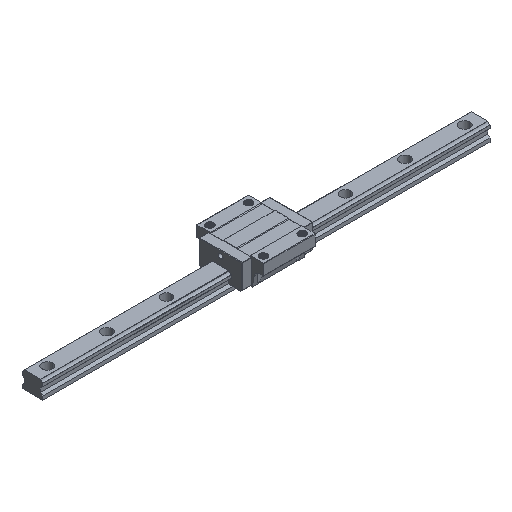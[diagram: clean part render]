
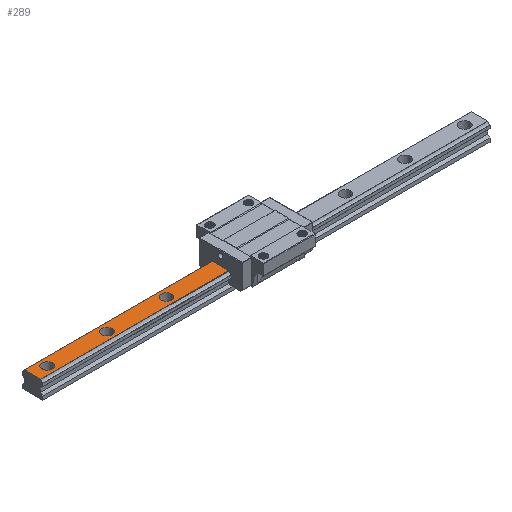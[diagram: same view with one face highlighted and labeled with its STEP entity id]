
A CAD part, isometric view. The second image highlights one B-rep face of the part: STEP entity #289.
In plain terms, the highlighted planar face has unit normal (0, 0, 1).
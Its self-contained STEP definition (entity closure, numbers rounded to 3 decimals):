
#121 = DIRECTION ( 'NONE',  ( 0., 0., -1. ) ) ;
#289 = ADVANCED_FACE ( 'NONE', ( #13353, #2041, #437, #1847 ), #6190, .F. ) ;
#413 = DIRECTION ( 'NONE',  ( 0., 0., -1. ) ) ;
#437 = FACE_BOUND ( 'NONE', #1756, .T. ) ;
#853 = EDGE_CURVE ( 'NONE', #4973, #10016, #16650, .T. ) ;
#1046 = VERTEX_POINT ( 'NONE', #15236 ) ;
#1101 = CIRCLE ( 'NONE', #8056, 7. ) ;
#1381 = AXIS2_PLACEMENT_3D ( 'NONE', #8221, #6796, #11142 ) ;
#1572 = ORIENTED_EDGE ( 'NONE', *, *, #2014, .T. ) ;
#1666 = ORIENTED_EDGE ( 'NONE', *, *, #11387, .T. ) ;
#1754 = DIRECTION ( 'NONE',  ( 0., 0., -1. ) ) ;
#1756 = EDGE_LOOP ( 'NONE', ( #17502, #1572 ) ) ;
#1847 = FACE_OUTER_BOUND ( 'NONE', #4196, .T. ) ;
#2014 = EDGE_CURVE ( 'NONE', #10727, #3666, #17040, .T. ) ;
#2041 = FACE_BOUND ( 'NONE', #6581, .T. ) ;
#2616 = DIRECTION ( 'NONE',  ( 0., 0., -1. ) ) ;
#3054 = ORIENTED_EDGE ( 'NONE', *, *, #3332, .T. ) ;
#3081 = CIRCLE ( 'NONE', #6993, 7. ) ;
#3257 = CARTESIAN_POINT ( 'NONE',  ( -280., 0., 23. ) ) ;
#3332 = EDGE_CURVE ( 'NONE', #10016, #4973, #3081, .T. ) ;
#3523 = AXIS2_PLACEMENT_3D ( 'NONE', #7327, #11391, #4396 ) ;
#3666 = VERTEX_POINT ( 'NONE', #12769 ) ;
#3794 = EDGE_LOOP ( 'NONE', ( #7271, #3054 ) ) ;
#4196 = EDGE_LOOP ( 'NONE', ( #9050, #9526, #13387, #11427 ) ) ;
#4396 = DIRECTION ( 'NONE',  ( -1., 0., 0. ) ) ;
#4484 = CARTESIAN_POINT ( 'NONE',  ( -300., 11.035, 23. ) ) ;
#4973 = VERTEX_POINT ( 'NONE', #16562 ) ;
#5179 = DIRECTION ( 'NONE',  ( -1., 0., 0. ) ) ;
#5188 = CARTESIAN_POINT ( 'NONE',  ( -207., 0., 23. ) ) ;
#5291 = CIRCLE ( 'NONE', #1381, 7. ) ;
#5319 = DIRECTION ( 'NONE',  ( -1., 0., 0. ) ) ;
#5364 = LINE ( 'NONE', #15356, #11060 ) ;
#5380 = EDGE_CURVE ( 'NONE', #1046, #7988, #15218, .T. ) ;
#5409 = DIRECTION ( 'NONE',  ( 1., 0., 0. ) ) ;
#5598 = CARTESIAN_POINT ( 'NONE',  ( 300., -11.035, 23. ) ) ;
#5897 = CARTESIAN_POINT ( 'NONE',  ( -113., 0., 23. ) ) ;
#6166 = DIRECTION ( 'NONE',  ( -1., 0., 0. ) ) ;
#6190 = PLANE ( 'NONE',  #10028 ) ;
#6450 = CARTESIAN_POINT ( 'NONE',  ( -300., -11.035, 23. ) ) ;
#6503 = DIRECTION ( 'NONE',  ( 0., -1., 0. ) ) ;
#6519 = ORIENTED_EDGE ( 'NONE', *, *, #9042, .T. ) ;
#6581 = EDGE_LOOP ( 'NONE', ( #1666, #6519 ) ) ;
#6796 = DIRECTION ( 'NONE',  ( 0., 0., -1. ) ) ;
#6993 = AXIS2_PLACEMENT_3D ( 'NONE', #10116, #121, #15857 ) ;
#7271 = ORIENTED_EDGE ( 'NONE', *, *, #853, .T. ) ;
#7327 = CARTESIAN_POINT ( 'NONE',  ( -280., 0., 23. ) ) ;
#7657 = EDGE_CURVE ( 'NONE', #3666, #10727, #1101, .T. ) ;
#7988 = VERTEX_POINT ( 'NONE', #16771 ) ;
#8056 = AXIS2_PLACEMENT_3D ( 'NONE', #3257, #413, #6166 ) ;
#8221 = CARTESIAN_POINT ( 'NONE',  ( -200., 0., 23. ) ) ;
#8434 = LINE ( 'NONE', #5598, #15526 ) ;
#8528 = AXIS2_PLACEMENT_3D ( 'NONE', #16928, #2616, #5179 ) ;
#8557 = VERTEX_POINT ( 'NONE', #6450 ) ;
#8928 = CARTESIAN_POINT ( 'NONE',  ( 300., 0., 23. ) ) ;
#9027 = DIRECTION ( 'NONE',  ( 0., -1., 0. ) ) ;
#9042 = EDGE_CURVE ( 'NONE', #13681, #11014, #5291, .T. ) ;
#9050 = ORIENTED_EDGE ( 'NONE', *, *, #10340, .T. ) ;
#9526 = ORIENTED_EDGE ( 'NONE', *, *, #5380, .F. ) ;
#9829 = AXIS2_PLACEMENT_3D ( 'NONE', #12403, #12487, #5319 ) ;
#10016 = VERTEX_POINT ( 'NONE', #5897 ) ;
#10028 = AXIS2_PLACEMENT_3D ( 'NONE', #8928, #1754, #9027 ) ;
#10116 = CARTESIAN_POINT ( 'NONE',  ( -120., 0., 23. ) ) ;
#10340 = EDGE_CURVE ( 'NONE', #8557, #7988, #8434, .T. ) ;
#10703 = DIRECTION ( 'NONE',  ( 0., -1., 0. ) ) ;
#10727 = VERTEX_POINT ( 'NONE', #17245 ) ;
#11014 = VERTEX_POINT ( 'NONE', #5188 ) ;
#11060 = VECTOR ( 'NONE', #6503, 1000. ) ;
#11142 = DIRECTION ( 'NONE',  ( -1., 0., 0. ) ) ;
#11347 = CIRCLE ( 'NONE', #9829, 7. ) ;
#11387 = EDGE_CURVE ( 'NONE', #11014, #13681, #11347, .T. ) ;
#11391 = DIRECTION ( 'NONE',  ( 0., 0., -1. ) ) ;
#11427 = ORIENTED_EDGE ( 'NONE', *, *, #13419, .T. ) ;
#12403 = CARTESIAN_POINT ( 'NONE',  ( -200., 0., 23. ) ) ;
#12487 = DIRECTION ( 'NONE',  ( 0., 0., -1. ) ) ;
#12769 = CARTESIAN_POINT ( 'NONE',  ( -287., 0., 23. ) ) ;
#13353 = FACE_BOUND ( 'NONE', #3794, .T. ) ;
#13387 = ORIENTED_EDGE ( 'NONE', *, *, #14933, .T. ) ;
#13419 = EDGE_CURVE ( 'NONE', #17677, #8557, #5364, .T. ) ;
#13508 = VECTOR ( 'NONE', #10703, 1000. ) ;
#13681 = VERTEX_POINT ( 'NONE', #13739 ) ;
#13739 = CARTESIAN_POINT ( 'NONE',  ( -193., 0., 23. ) ) ;
#14933 = EDGE_CURVE ( 'NONE', #1046, #17677, #16783, .T. ) ;
#15023 = DIRECTION ( 'NONE',  ( -1., 0., 0. ) ) ;
#15218 = LINE ( 'NONE', #17647, #13508 ) ;
#15236 = CARTESIAN_POINT ( 'NONE',  ( -47.35, 11.035, 23. ) ) ;
#15356 = CARTESIAN_POINT ( 'NONE',  ( -300., 0., 23. ) ) ;
#15526 = VECTOR ( 'NONE', #5409, 1000. ) ;
#15857 = DIRECTION ( 'NONE',  ( -1., 0., 0. ) ) ;
#16499 = VECTOR ( 'NONE', #15023, 1000. ) ;
#16562 = CARTESIAN_POINT ( 'NONE',  ( -127., 0., 23. ) ) ;
#16650 = CIRCLE ( 'NONE', #8528, 7. ) ;
#16771 = CARTESIAN_POINT ( 'NONE',  ( -47.35, -11.035, 23. ) ) ;
#16783 = LINE ( 'NONE', #17821, #16499 ) ;
#16928 = CARTESIAN_POINT ( 'NONE',  ( -120., 0., 23. ) ) ;
#17040 = CIRCLE ( 'NONE', #3523, 7. ) ;
#17245 = CARTESIAN_POINT ( 'NONE',  ( -273., 0., 23. ) ) ;
#17502 = ORIENTED_EDGE ( 'NONE', *, *, #7657, .T. ) ;
#17647 = CARTESIAN_POINT ( 'NONE',  ( -47.35, -11.035, 23. ) ) ;
#17677 = VERTEX_POINT ( 'NONE', #4484 ) ;
#17821 = CARTESIAN_POINT ( 'NONE',  ( 300., 11.035, 23. ) ) ;
